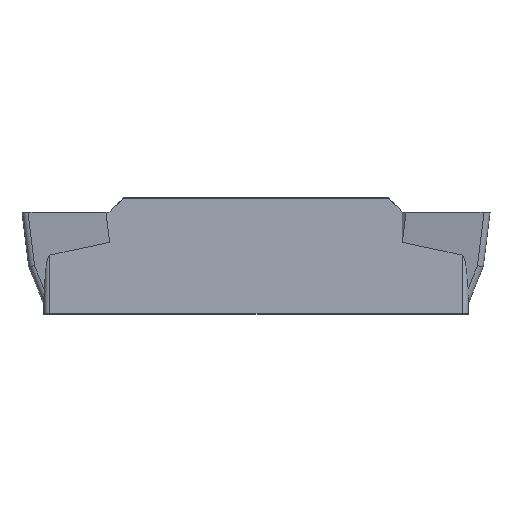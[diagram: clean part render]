
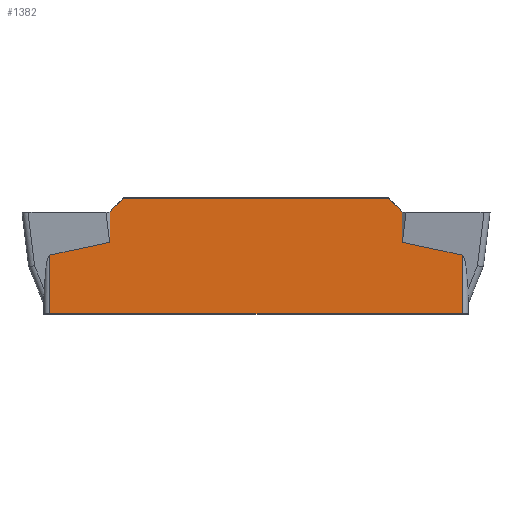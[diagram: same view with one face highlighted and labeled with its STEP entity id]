
A CAD part, front view. The second image highlights one B-rep face of the part: STEP entity #1382.
In plain terms, the highlighted planar face has unit normal (0, -1, 0).
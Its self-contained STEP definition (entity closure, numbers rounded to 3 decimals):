
#6 = VERTEX_POINT ( 'NONE', #1069 ) ;
#51 = VERTEX_POINT ( 'NONE', #133 ) ;
#83 = LINE ( 'NONE', #568, #616 ) ;
#95 = CARTESIAN_POINT ( 'NONE',  ( 15.05, -0.8, -1.469 ) ) ;
#110 = CARTESIAN_POINT ( 'NONE',  ( 0.75, -0.8, 0.466 ) ) ;
#133 = CARTESIAN_POINT ( 'NONE',  ( 0.95, -0.8, -3.466 ) ) ;
#135 = EDGE_CURVE ( 'NONE', #947, #1732, #1274, .T. ) ;
#136 = VECTOR ( 'NONE', #1086, 1000. ) ;
#190 = CARTESIAN_POINT ( 'NONE',  ( 0.95, -0.8, -1.469 ) ) ;
#206 = DIRECTION ( 'NONE',  ( 0.707, 0., -0.707 ) ) ;
#218 = CARTESIAN_POINT ( 'NONE',  ( 15.875, -0.8, -2.875 ) ) ;
#221 = VECTOR ( 'NONE', #805, 1000. ) ;
#250 = ORIENTED_EDGE ( 'NONE', *, *, #1401, .F. ) ;
#251 = DIRECTION ( 'NONE',  ( 0., 1., 0. ) ) ;
#277 = CARTESIAN_POINT ( 'NONE',  ( 13., -0.8, -3.15 ) ) ;
#290 = EDGE_CURVE ( 'NONE', #6, #1859, #1865, .T. ) ;
#337 = LINE ( 'NONE', #1260, #1003 ) ;
#350 = ORIENTED_EDGE ( 'NONE', *, *, #876, .T. ) ;
#377 = VECTOR ( 'NONE', #748, 1000. ) ;
#420 = EDGE_CURVE ( 'NONE', #1732, #1235, #785, .T. ) ;
#449 = EDGE_CURVE ( 'NONE', #2044, #6, #337, .T. ) ;
#540 = DIRECTION ( 'NONE',  ( 1., 0., 0. ) ) ;
#560 = CARTESIAN_POINT ( 'NONE',  ( 15.05, -0.8, -3.5 ) ) ;
#568 = CARTESIAN_POINT ( 'NONE',  ( 0.95, -0.8, -3.5 ) ) ;
#609 = LINE ( 'NONE', #110, #377 ) ;
#613 = CARTESIAN_POINT ( 'NONE',  ( 13., -0.8, 0. ) ) ;
#616 = VECTOR ( 'NONE', #1021, 1000. ) ;
#657 = CARTESIAN_POINT ( 'NONE',  ( 3.466, -0.8, 0.466 ) ) ;
#670 = LINE ( 'NONE', #218, #803 ) ;
#737 = FACE_OUTER_BOUND ( 'NONE', #1762, .T. ) ;
#748 = DIRECTION ( 'NONE',  ( -1., 0., 0. ) ) ;
#773 = ORIENTED_EDGE ( 'NONE', *, *, #290, .T. ) ;
#785 = LINE ( 'NONE', #1385, #136 ) ;
#803 = VECTOR ( 'NONE', #206, 1000. ) ;
#805 = DIRECTION ( 'NONE',  ( 1., 0., 0. ) ) ;
#876 = EDGE_CURVE ( 'NONE', #51, #1381, #1124, .T. ) ;
#898 = LINE ( 'NONE', #560, #1771 ) ;
#947 = VERTEX_POINT ( 'NONE', #190 ) ;
#977 = DIRECTION ( 'NONE',  ( -0.707, 0., -0.707 ) ) ;
#998 = DIRECTION ( 'NONE',  ( 0.978, 0., 0.209 ) ) ;
#1003 = VECTOR ( 'NONE', #1304, 1000. ) ;
#1009 = CARTESIAN_POINT ( 'NONE',  ( 3., -0.8, -1.032 ) ) ;
#1021 = DIRECTION ( 'NONE',  ( 0., 0., 1. ) ) ;
#1041 = PLANE ( 'NONE',  #1144 ) ;
#1064 = VERTEX_POINT ( 'NONE', #2045 ) ;
#1069 = CARTESIAN_POINT ( 'NONE',  ( 13., -0.8, -1.032 ) ) ;
#1086 = DIRECTION ( 'NONE',  ( 0., 0., 1. ) ) ;
#1124 = LINE ( 'NONE', #1258, #221 ) ;
#1144 = AXIS2_PLACEMENT_3D ( 'NONE', #2009, #251, #540 ) ;
#1214 = VECTOR ( 'NONE', #977, 1000. ) ;
#1218 = EDGE_CURVE ( 'NONE', #1064, #1859, #670, .T. ) ;
#1235 = VERTEX_POINT ( 'NONE', #1951 ) ;
#1258 = CARTESIAN_POINT ( 'NONE',  ( 0.75, -0.8, -3.466 ) ) ;
#1260 = CARTESIAN_POINT ( 'NONE',  ( 15.564, -0.8, -1.579 ) ) ;
#1268 = VERTEX_POINT ( 'NONE', #657 ) ;
#1274 = LINE ( 'NONE', #1775, #1451 ) ;
#1282 = EDGE_CURVE ( 'NONE', #1268, #1235, #1288, .T. ) ;
#1288 = LINE ( 'NONE', #1797, #1214 ) ;
#1304 = DIRECTION ( 'NONE',  ( -0.978, 0., 0.209 ) ) ;
#1364 = EDGE_CURVE ( 'NONE', #1381, #2044, #898, .T. ) ;
#1381 = VERTEX_POINT ( 'NONE', #1818 ) ;
#1382 = ADVANCED_FACE ( 'NONE', ( #737 ), #1041, .F. ) ;
#1385 = CARTESIAN_POINT ( 'NONE',  ( 3., -0.8, -3.15 ) ) ;
#1399 = ORIENTED_EDGE ( 'NONE', *, *, #135, .F. ) ;
#1401 = EDGE_CURVE ( 'NONE', #51, #947, #83, .T. ) ;
#1451 = VECTOR ( 'NONE', #998, 1000. ) ;
#1454 = VECTOR ( 'NONE', #1533, 1000. ) ;
#1470 = ORIENTED_EDGE ( 'NONE', *, *, #449, .T. ) ;
#1494 = ORIENTED_EDGE ( 'NONE', *, *, #420, .F. ) ;
#1525 = EDGE_CURVE ( 'NONE', #1064, #1268, #609, .T. ) ;
#1533 = DIRECTION ( 'NONE',  ( 0., 0., 1. ) ) ;
#1584 = ORIENTED_EDGE ( 'NONE', *, *, #1282, .T. ) ;
#1732 = VERTEX_POINT ( 'NONE', #1009 ) ;
#1762 = EDGE_LOOP ( 'NONE', ( #350, #1834, #1470, #773, #1829, #1943, #1584, #1494, #1399, #250 ) ) ;
#1771 = VECTOR ( 'NONE', #1992, 1000. ) ;
#1775 = CARTESIAN_POINT ( 'NONE',  ( 0.436, -0.8, -1.579 ) ) ;
#1797 = CARTESIAN_POINT ( 'NONE',  ( 0.125, -0.8, -2.875 ) ) ;
#1818 = CARTESIAN_POINT ( 'NONE',  ( 15.05, -0.8, -3.466 ) ) ;
#1829 = ORIENTED_EDGE ( 'NONE', *, *, #1218, .F. ) ;
#1834 = ORIENTED_EDGE ( 'NONE', *, *, #1364, .T. ) ;
#1859 = VERTEX_POINT ( 'NONE', #613 ) ;
#1865 = LINE ( 'NONE', #277, #1454 ) ;
#1943 = ORIENTED_EDGE ( 'NONE', *, *, #1525, .T. ) ;
#1951 = CARTESIAN_POINT ( 'NONE',  ( 3., -0.8, 0. ) ) ;
#1992 = DIRECTION ( 'NONE',  ( 0., 0., 1. ) ) ;
#2009 = CARTESIAN_POINT ( 'NONE',  ( 0.75, -0.8, -3.5 ) ) ;
#2044 = VERTEX_POINT ( 'NONE', #95 ) ;
#2045 = CARTESIAN_POINT ( 'NONE',  ( 12.534, -0.8, 0.466 ) ) ;
